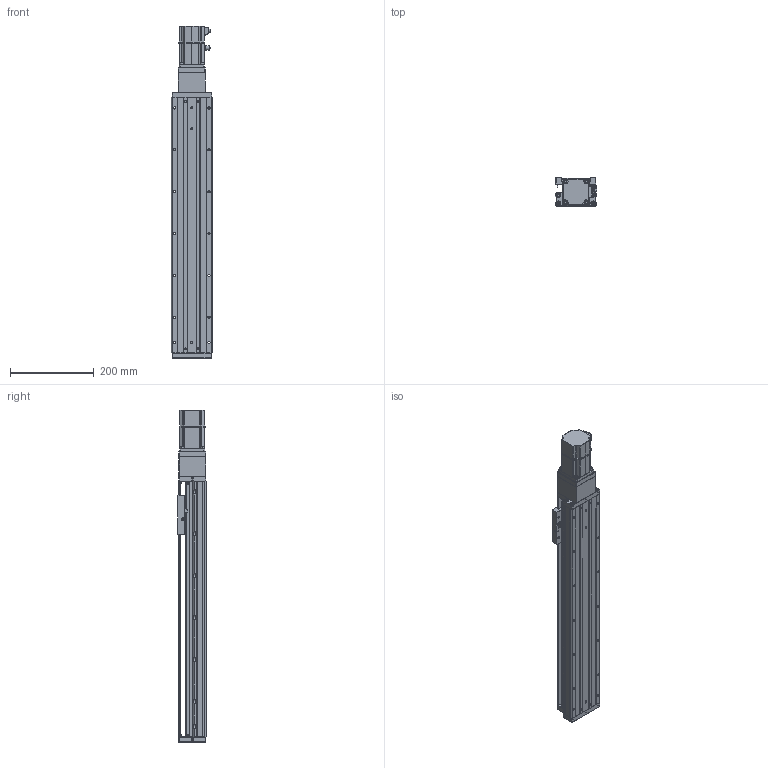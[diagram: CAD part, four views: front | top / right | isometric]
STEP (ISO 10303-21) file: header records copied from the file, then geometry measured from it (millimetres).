
FILE_DESCRIPTION (( 'STEP AP203' ), '1' );
FILE_NAME ('KTHA100-450-BC-M20-C4L.step', '2022-04-26T01:44:26', ( '微软用户' ), ( '微软中国' ), 'SwSTEP 2.0', 'SolidWorks 2020', '' );
FILE_SCHEMA (( 'CONFIG_CONTROL_DESIGN' ));
Length unit declared in the file: millimetre
Products named in the file (18): CTHA60-016; EE_SX911P_R; GBT 70.3-M3℅6; _X2_4E0983F1_X0_200W_1; CTHA60-017; CTHA86-013; KTHA100-001_610; CTHA60-021; CTHA86-027; KTHA100-002; GBT77-2000 M3×3; CTHA86-006-1_CTHA86-006-2; KTHA100-004; GBT 70.1-M3℅6; KTHA100-450-BC-M20-C4L; KTHA100-005; GBT70.1 M5℅16; GB¨uT 70.2-M3¡Á5_M3¡Á6
Assembly tree (56 placements, depth 2):
  KTHA100-450-BC-M20-C4L
    KTHA100-001_610
    KTHA100-002
    KTHA100-004
    KTHA100-005
    GB¨uT 70.2-M3¡Á5_M3¡Á6  x6
    EE_SX911P_R  x3
    CTHA60-017  x3
    CTHA60-021  x2
    GBT77-2000 M3×3  x6
    GBT 70.1-M3℅6  x6
    GBT70.1 M5℅16  x14
    CTHA60-016  x2
    GBT 70.3-M3℅6  x6
    _X2_4E0983F1_X0_200W_1
    CTHA86-013
    CTHA86-027
    CTHA86-006-1_CTHA86-006-2
Bounding box: 98.82 x 68 x 792.5 mm (x, y, z)
Volume: 2990550.9 mm3; surface area: 507000.5 mm2
Topology: 59 solids, 59 shells, 2387 faces, 5688 edges, 3508 vertices
Faces by surface type: plane 1215, cylinder 655, cone 328, torus 104, bspline 69, sphere 16
Entity records: 40952 total; most frequent: CARTESIAN_POINT 7863, DIRECTION 6439, ORIENTED_EDGE 6144, EDGE_CURVE 3072, AXIS2_PLACEMENT_3D 2256, LINE 1927, VECTOR 1927, VERTEX_POINT 1926
